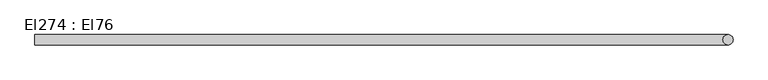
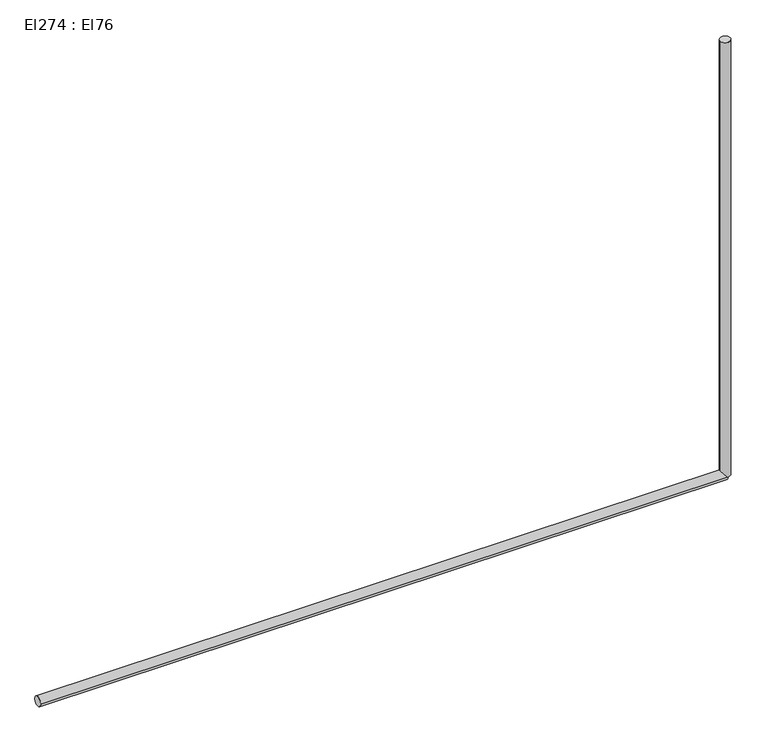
"""IFC4 building model written with IfcOpenShell, lengths in millimetres: cable carrier segment geometry, El274 : El76."""

from ifc_helpers import new_model, si_unit, point, frame, frame_2d, origin, place, context, project, spatial, circle_curve, trimmed, segment, composite_curve, outline, extrude, source, transform, mapped, element, save


def el274_el76_2c5dd4db(model_context):
    return source(origin(), model_context, "Body", "SweptSolid", [
        extrude(outline(composite_curve([segment(trimmed(circle_curve(frame_2d((18481.7226511, 6766.0121745)), 9.5), [point((18472.2226511, 6766.0121745))], [point((18491.2226511, 6766.0121745))], False, "CARTESIAN"), True, "CONTINUOUS"), segment(trimmed(circle_curve(frame_2d((18481.7226511, 6766.0121745)), 9.5), [point((18491.2226511, 6766.0121745))], [point((18472.2226511, 6766.0121745))], False, "CARTESIAN"), True, "CONTINUOUS")], self_intersect=False)), frame((0.0, 0.0, 1800.0), z_axis=(0.0, 0.0, 1.0), x_axis=(1.0, 0.0, 0.0)), (0.0, 0.0, 1.0), 870.0),
        extrude(outline(composite_curve([segment(trimmed(circle_curve(frame_2d((6766.0121745, 1800.0)), 9.5), [point((6756.5121745, 1800.0))], [point((6775.5121745, 1800.0))], False, "CARTESIAN"), True, "CONTINUOUS"), segment(trimmed(circle_curve(frame_2d((6766.0121745, 1800.0)), 9.5), [point((6775.5121745, 1800.0))], [point((6756.5121745, 1800.0))], False, "CARTESIAN"), True, "CONTINUOUS")], self_intersect=False)), frame((17180.7266511, 0.0, 0.0), z_axis=(1.0, 0.0, 0.0), x_axis=(0.0, 1.0, 0.0)), (0.0, 0.0, 1.0), 1301.0),
    ])


if __name__ == "__main__":
    model = new_model("IFC4")
    model_context = context("Model", 3, world=origin())
    ifc_project = project(units=[si_unit("LENGTHUNIT", "METRE", prefix="MILLI")], contexts=[model_context])
    site = spatial("IfcSite", under=ifc_project)
    building = spatial("IfcBuilding", under=site)
    placement = place(None, origin())
    el274_el76_shape = el274_el76_2c5dd4db(model_context)
    element("IfcCableCarrierSegment", 1, ObjectType="El274 : El76", at=placement, inside=building, context=model_context, shape_type="MappedRepresentation", body=[
        mapped(el274_el76_shape, transform((0.0, 0.0, 0.0), x_axis=(1.0, 0.0, 0.0), y_axis=(0.0, 1.0, 0.0), z_axis=(0.0, 0.0, 1.0))),
    ])
    save(model, "model.ifc")
